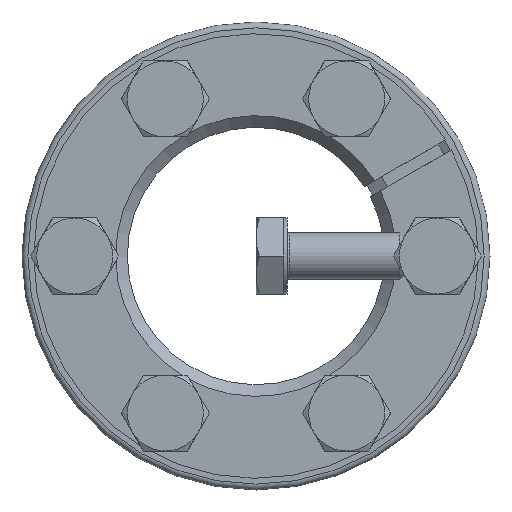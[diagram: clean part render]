
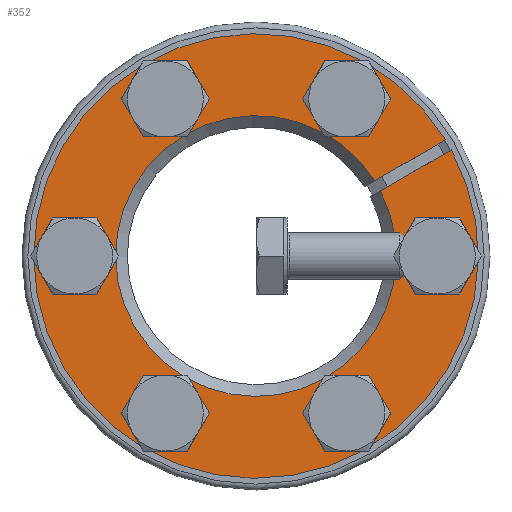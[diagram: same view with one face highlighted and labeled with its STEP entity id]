
A CAD part, front view. The second image highlights one B-rep face of the part: STEP entity #352.
In plain terms, the highlighted planar face has unit normal (0, -1, 0).
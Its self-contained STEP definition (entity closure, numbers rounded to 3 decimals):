
#352 = ADVANCED_FACE( '', ( #568, #569, #570, #571, #572, #573, #574 ), #575, .F. );
#568 = FACE_BOUND( '', #704, .T. );
#569 = FACE_BOUND( '', #705, .T. );
#570 = FACE_BOUND( '', #706, .T. );
#571 = FACE_BOUND( '', #707, .T. );
#572 = FACE_BOUND( '', #708, .T. );
#573 = FACE_BOUND( '', #709, .T. );
#574 = FACE_OUTER_BOUND( '', #710, .T. );
#575 = PLANE( '', #711 );
#704 = EDGE_LOOP( '', ( #869 ) );
#705 = EDGE_LOOP( '', ( #870 ) );
#706 = EDGE_LOOP( '', ( #871 ) );
#707 = EDGE_LOOP( '', ( #872 ) );
#708 = EDGE_LOOP( '', ( #873 ) );
#709 = EDGE_LOOP( '', ( #874 ) );
#710 = EDGE_LOOP( '', ( #875, #876, #877, #878 ) );
#711 = AXIS2_PLACEMENT_3D( '', #879, #880, #881 );
#869 = ORIENTED_EDGE( '', *, *, #1183, .T. );
#870 = ORIENTED_EDGE( '', *, *, #1184, .T. );
#871 = ORIENTED_EDGE( '', *, *, #1185, .T. );
#872 = ORIENTED_EDGE( '', *, *, #1186, .T. );
#873 = ORIENTED_EDGE( '', *, *, #1187, .T. );
#874 = ORIENTED_EDGE( '', *, *, #1188, .T. );
#875 = ORIENTED_EDGE( '', *, *, #1189, .T. );
#876 = ORIENTED_EDGE( '', *, *, #1190, .T. );
#877 = ORIENTED_EDGE( '', *, *, #1191, .F. );
#878 = ORIENTED_EDGE( '', *, *, #1192, .T. );
#879 = CARTESIAN_POINT( '', ( 0., 0., 40. ) );
#880 = DIRECTION( '', ( 0., 1., 0. ) );
#881 = DIRECTION( '', ( 0., 0., 1. ) );
#1183 = EDGE_CURVE( '', #1300, #1300, #1301, .T. );
#1184 = EDGE_CURVE( '', #1302, #1302, #1303, .T. );
#1185 = EDGE_CURVE( '', #1304, #1304, #1305, .T. );
#1186 = EDGE_CURVE( '', #1306, #1306, #1307, .T. );
#1187 = EDGE_CURVE( '', #1308, #1308, #1309, .T. );
#1188 = EDGE_CURVE( '', #1310, #1310, #1311, .T. );
#1189 = EDGE_CURVE( '', #1312, #1313, #1314, .T. );
#1190 = EDGE_CURVE( '', #1313, #1315, #1316, .T. );
#1191 = EDGE_CURVE( '', #1317, #1315, #1318, .T. );
#1192 = EDGE_CURVE( '', #1317, #1312, #1319, .T. );
#1300 = VERTEX_POINT( '', #1385 );
#1301 = CIRCLE( '', #1386, 4. );
#1302 = VERTEX_POINT( '', #1387 );
#1303 = CIRCLE( '', #1388, 4. );
#1304 = VERTEX_POINT( '', #1389 );
#1305 = CIRCLE( '', #1390, 4. );
#1306 = VERTEX_POINT( '', #1391 );
#1307 = CIRCLE( '', #1392, 4. );
#1308 = VERTEX_POINT( '', #1393 );
#1309 = CIRCLE( '', #1394, 4. );
#1310 = VERTEX_POINT( '', #1395 );
#1311 = CIRCLE( '', #1396, 4. );
#1312 = VERTEX_POINT( '', #1397 );
#1313 = VERTEX_POINT( '', #1398 );
#1314 = LINE( '', #1399, #1400 );
#1315 = VERTEX_POINT( '', #1401 );
#1316 = CIRCLE( '', #1402, 24. );
#1317 = VERTEX_POINT( '', #1403 );
#1318 = LINE( '', #1404, #1405 );
#1319 = CIRCLE( '', #1406, 38. );
#1385 = CARTESIAN_POINT( '', ( 12.036, 0., -28.847 ) );
#1386 = AXIS2_PLACEMENT_3D( '', #1508, #1509, #1510 );
#1387 = CARTESIAN_POINT( '', ( -31., 0., 4. ) );
#1388 = AXIS2_PLACEMENT_3D( '', #1511, #1512, #1513 );
#1389 = CARTESIAN_POINT( '', ( 18.964, 0., 24.847 ) );
#1390 = AXIS2_PLACEMENT_3D( '', #1514, #1515, #1516 );
#1391 = CARTESIAN_POINT( '', ( 31., 0., -4. ) );
#1392 = AXIS2_PLACEMENT_3D( '', #1517, #1518, #1519 );
#1393 = CARTESIAN_POINT( '', ( -12.036, 0., 28.847 ) );
#1394 = AXIS2_PLACEMENT_3D( '', #1520, #1521, #1522 );
#1395 = CARTESIAN_POINT( '', ( -18.964, 0., -24.847 ) );
#1396 = AXIS2_PLACEMENT_3D( '', #1523, #1524, #1525 );
#1397 = CARTESIAN_POINT( '', ( 33.398, 0., 18.127 ) );
#1398 = CARTESIAN_POINT( '', ( 21.267, 0., 11.124 ) );
#1399 = CARTESIAN_POINT( '', ( 33.409, 0., 18.134 ) );
#1400 = VECTOR( '', #1526, 1000. );
#1401 = CARTESIAN_POINT( '', ( 20.267, 0., 12.856 ) );
#1402 = AXIS2_PLACEMENT_3D( '', #1527, #1528, #1529 );
#1403 = CARTESIAN_POINT( '', ( 32.398, 0., 19.859 ) );
#1404 = CARTESIAN_POINT( '', ( 32.409, 0., 19.866 ) );
#1405 = VECTOR( '', #1530, 1000. );
#1406 = AXIS2_PLACEMENT_3D( '', #1531, #1532, #1533 );
#1508 = CARTESIAN_POINT( '', ( 15.5, 0., -26.847 ) );
#1509 = DIRECTION( '', ( 0., 1., 0. ) );
#1510 = DIRECTION( '', ( -0.866, 0., -0.5 ) );
#1511 = CARTESIAN_POINT( '', ( -31., 0., 0. ) );
#1512 = DIRECTION( '', ( 0., 1., 0. ) );
#1513 = DIRECTION( '', ( 0., 0., 1. ) );
#1514 = CARTESIAN_POINT( '', ( 15.5, 0., 26.847 ) );
#1515 = DIRECTION( '', ( 0., 1., 0. ) );
#1516 = DIRECTION( '', ( 0.866, 0., -0.5 ) );
#1517 = CARTESIAN_POINT( '', ( 31., 0., 0. ) );
#1518 = DIRECTION( '', ( 0., 1., 0. ) );
#1519 = DIRECTION( '', ( 0., 0., -1. ) );
#1520 = CARTESIAN_POINT( '', ( -15.5, 0., 26.847 ) );
#1521 = DIRECTION( '', ( 0., 1., 0. ) );
#1522 = DIRECTION( '', ( 0.866, 0., 0.5 ) );
#1523 = CARTESIAN_POINT( '', ( -15.5, 0., -26.847 ) );
#1524 = DIRECTION( '', ( 0., 1., 0. ) );
#1525 = DIRECTION( '', ( -0.866, 0., 0.5 ) );
#1526 = DIRECTION( '', ( -0.866, 0., -0.5 ) );
#1527 = CARTESIAN_POINT( '', ( 0., 0., 0. ) );
#1528 = DIRECTION( '', ( 0., 1., 0. ) );
#1529 = DIRECTION( '', ( 0., 0., 1. ) );
#1530 = DIRECTION( '', ( -0.866, 0., -0.5 ) );
#1531 = CARTESIAN_POINT( '', ( 0., 0., 0. ) );
#1532 = DIRECTION( '', ( 0., -1., 0. ) );
#1533 = DIRECTION( '', ( 0., 0., -1. ) );
